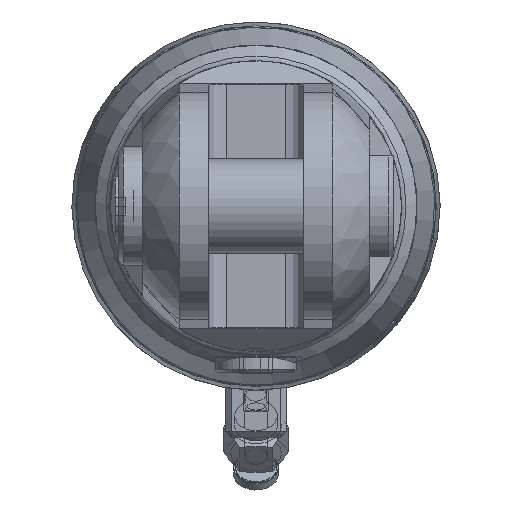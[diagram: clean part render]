
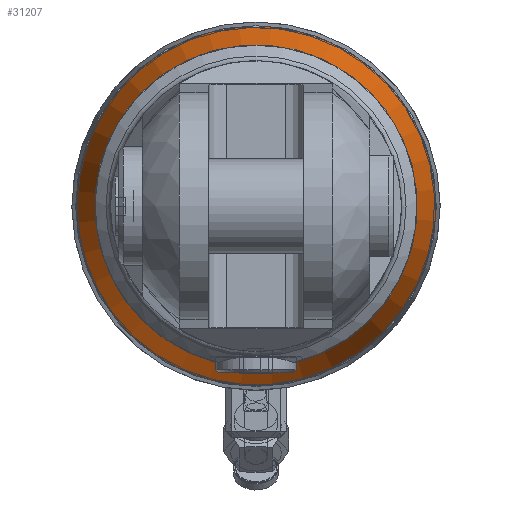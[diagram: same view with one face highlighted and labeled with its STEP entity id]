
A CAD part, left-side view. The second image highlights one B-rep face of the part: STEP entity #31207.
In plain terms, the highlighted conical face has half-angle 17.561 degrees and reference radius 57.244 mm.
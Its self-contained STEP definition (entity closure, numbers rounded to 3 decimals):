
#609=CONICAL_SURFACE('',#32992,57.244,0.306);
#4798=FACE_OUTER_BOUND('',#6495,.T.);
#6495=EDGE_LOOP('',(#22306,#22307,#22308,#22309,#22310,#22311));
#8330=CIRCLE('',#32989,54.151);
#8331=CIRCLE('',#32990,54.151);
#8333=CIRCLE('',#32993,60.337);
#8334=CIRCLE('',#32994,60.337);
#8752=LINE('',#40691,#11651);
#11651=VECTOR('',#34718,57.244);
#14582=VERTEX_POINT('',#40683);
#14583=VERTEX_POINT('',#40685);
#14584=VERTEX_POINT('',#40690);
#14585=VERTEX_POINT('',#40692);
#17643=EDGE_CURVE('',#14582,#14583,#8330,.T.);
#17644=EDGE_CURVE('',#14583,#14582,#8331,.T.);
#17646=EDGE_CURVE('',#14583,#14584,#8752,.T.);
#17647=EDGE_CURVE('',#14585,#14584,#8333,.T.);
#17648=EDGE_CURVE('',#14584,#14585,#8334,.T.);
#22306=ORIENTED_EDGE('',*,*,#17643,.F.);
#22307=ORIENTED_EDGE('',*,*,#17644,.F.);
#22308=ORIENTED_EDGE('',*,*,#17646,.T.);
#22309=ORIENTED_EDGE('',*,*,#17647,.F.);
#22310=ORIENTED_EDGE('',*,*,#17648,.F.);
#22311=ORIENTED_EDGE('',*,*,#17646,.F.);
#31207=ADVANCED_FACE('',(#4798),#609,.T.);
#32989=AXIS2_PLACEMENT_3D('',#40686,#34710,#34711);
#32990=AXIS2_PLACEMENT_3D('',#40687,#34712,#34713);
#32992=AXIS2_PLACEMENT_3D('',#40689,#34716,#34717);
#32993=AXIS2_PLACEMENT_3D('',#40693,#34719,#34720);
#32994=AXIS2_PLACEMENT_3D('',#40694,#34721,#34722);
#34710=DIRECTION('center_axis',(-1.,0.,0.));
#34711=DIRECTION('ref_axis',(0.,0.091,0.996));
#34712=DIRECTION('center_axis',(-1.,0.,0.));
#34713=DIRECTION('ref_axis',(0.,0.091,0.996));
#34716=DIRECTION('center_axis',(1.,0.,0.));
#34717=DIRECTION('ref_axis',(0.,-0.091,-0.996));
#34718=DIRECTION('',(0.953,0.028,0.3));
#34719=DIRECTION('center_axis',(1.,0.,0.));
#34720=DIRECTION('ref_axis',(0.,0.091,0.996));
#34721=DIRECTION('center_axis',(1.,0.,0.));
#34722=DIRECTION('ref_axis',(0.,0.091,0.996));
#40683=CARTESIAN_POINT('',(-20.023,-4.95,-53.924));
#40685=CARTESIAN_POINT('',(-20.023,4.95,53.924));
#40686=CARTESIAN_POINT('Origin',(-20.023,0.,
0.));
#40687=CARTESIAN_POINT('Origin',(-20.023,0.,
0.));
#40689=CARTESIAN_POINT('Origin',(-10.25,0.,0.));
#40690=CARTESIAN_POINT('',(-0.477,5.515,60.084));
#40691=CARTESIAN_POINT('',(-10.25,5.233,57.004));
#40692=CARTESIAN_POINT('',(-0.477,-5.515,-60.084));
#40693=CARTESIAN_POINT('Origin',(-0.477,0.,
0.));
#40694=CARTESIAN_POINT('Origin',(-0.477,0.,
0.));
